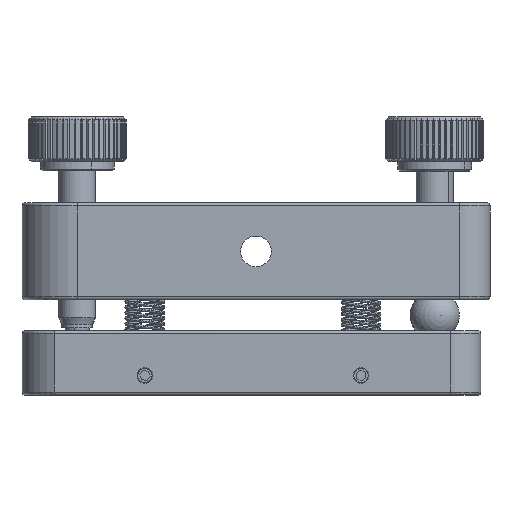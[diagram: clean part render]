
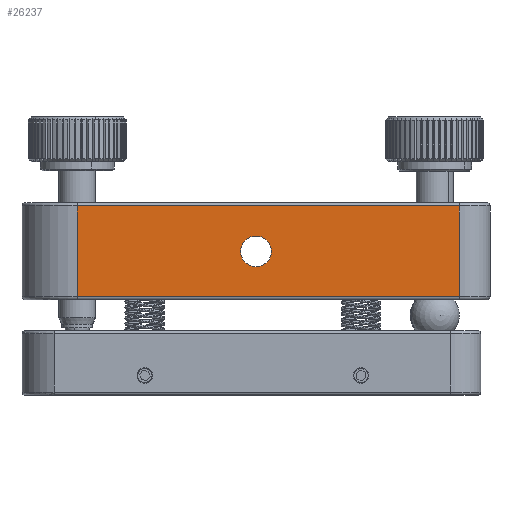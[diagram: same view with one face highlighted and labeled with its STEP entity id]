
A CAD part, left-side view. The second image highlights one B-rep face of the part: STEP entity #26237.
In plain terms, the highlighted planar face has unit normal (-1, 0, 0).
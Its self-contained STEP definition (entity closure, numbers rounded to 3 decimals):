
#840 = LINE ( 'NONE', #17364, #41112 ) ;
#1880 = CARTESIAN_POINT ( 'NONE',  ( -49.697, 1.818, 20.4 ) ) ;
#2075 = FACE_BOUND ( 'NONE', #9231, .T. ) ;
#3292 = VERTEX_POINT ( 'NONE', #35383 ) ;
#3514 = CARTESIAN_POINT ( 'NONE',  ( -49.697, 30.918, 10.5 ) ) ;
#3836 = DIRECTION ( 'NONE',  ( 0., 1., 0. ) ) ;
#8790 = EDGE_LOOP ( 'NONE', ( #52214, #22197, #33926, #47365 ) ) ;
#9231 = EDGE_LOOP ( 'NONE', ( #11255, #41966 ) ) ;
#9278 = CARTESIAN_POINT ( 'NONE',  ( -49.697, -31.282, 10.5 ) ) ;
#10439 = CIRCLE ( 'NONE', #47567, 2.5 ) ;
#10593 = CARTESIAN_POINT ( 'NONE',  ( -49.697, 1.818, 15.4 ) ) ;
#10652 = CARTESIAN_POINT ( 'NONE',  ( -49.697, 30.918, 25.8 ) ) ;
#11255 = ORIENTED_EDGE ( 'NONE', *, *, #14557, .T. ) ;
#13909 = DIRECTION ( 'NONE',  ( 0., 1., 0. ) ) ;
#14554 = DIRECTION ( 'NONE',  ( 1., 0., 0. ) ) ;
#14557 = EDGE_CURVE ( 'NONE', #29776, #37350, #10439, .T. ) ;
#14992 = AXIS2_PLACEMENT_3D ( 'NONE', #51603, #14554, #31043 ) ;
#15338 = EDGE_CURVE ( 'NONE', #3292, #42845, #47700, .T. ) ;
#16256 = DIRECTION ( 'NONE',  ( 1., 0., 0. ) ) ;
#17364 = CARTESIAN_POINT ( 'NONE',  ( -49.697, -31.282, 25.8 ) ) ;
#17538 = VERTEX_POINT ( 'NONE', #39224 ) ;
#18601 = FACE_OUTER_BOUND ( 'NONE', #8790, .T. ) ;
#22197 = ORIENTED_EDGE ( 'NONE', *, *, #49992, .T. ) ;
#24428 = LINE ( 'NONE', #40879, #37033 ) ;
#25810 = DIRECTION ( 'NONE',  ( 0., -1., 0. ) ) ;
#26237 = ADVANCED_FACE ( 'NONE', ( #2075, #18601 ), #35083, .F. ) ;
#27171 = DIRECTION ( 'NONE',  ( 0., 0., -1. ) ) ;
#27873 = CARTESIAN_POINT ( 'NONE',  ( -49.697, -31.282, 25.3 ) ) ;
#29123 = VECTOR ( 'NONE', #25810, 1000. ) ;
#29191 = AXIS2_PLACEMENT_3D ( 'NONE', #34448, #50964, #13909 ) ;
#29776 = VERTEX_POINT ( 'NONE', #10593 ) ;
#31043 = DIRECTION ( 'NONE',  ( 0., 1., 0. ) ) ;
#31704 = EDGE_CURVE ( 'NONE', #38994, #17538, #840, .T. ) ;
#32743 = DIRECTION ( 'NONE',  ( 0., 1., 0. ) ) ;
#33853 = DIRECTION ( 'NONE',  ( 0., 0., -1. ) ) ;
#33926 = ORIENTED_EDGE ( 'NONE', *, *, #31704, .F. ) ;
#34063 = VECTOR ( 'NONE', #27171, 1000. ) ;
#34448 = CARTESIAN_POINT ( 'NONE',  ( -49.697, 1.818, 17.9 ) ) ;
#35083 = PLANE ( 'NONE',  #14992 ) ;
#35383 = CARTESIAN_POINT ( 'NONE',  ( -49.697, 30.918, 25.3 ) ) ;
#37033 = VECTOR ( 'NONE', #3836, 1000. ) ;
#37350 = VERTEX_POINT ( 'NONE', #1880 ) ;
#38994 = VERTEX_POINT ( 'NONE', #27873 ) ;
#39224 = CARTESIAN_POINT ( 'NONE',  ( -49.697, -31.282, 10.5 ) ) ;
#40879 = CARTESIAN_POINT ( 'NONE',  ( -49.697, 30.918, 25.3 ) ) ;
#41112 = VECTOR ( 'NONE', #33853, 1000. ) ;
#41966 = ORIENTED_EDGE ( 'NONE', *, *, #43954, .T. ) ;
#42845 = VERTEX_POINT ( 'NONE', #3514 ) ;
#43954 = EDGE_CURVE ( 'NONE', #37350, #29776, #52507, .T. ) ;
#45811 = EDGE_CURVE ( 'NONE', #38994, #3292, #24428, .T. ) ;
#46326 = LINE ( 'NONE', #9278, #29123 ) ;
#47365 = ORIENTED_EDGE ( 'NONE', *, *, #45811, .T. ) ;
#47567 = AXIS2_PLACEMENT_3D ( 'NONE', #53305, #16256, #32743 ) ;
#47700 = LINE ( 'NONE', #10652, #34063 ) ;
#49992 = EDGE_CURVE ( 'NONE', #42845, #17538, #46326, .T. ) ;
#50964 = DIRECTION ( 'NONE',  ( 1., 0., 0. ) ) ;
#51603 = CARTESIAN_POINT ( 'NONE',  ( -49.697, -31.282, 25.8 ) ) ;
#52214 = ORIENTED_EDGE ( 'NONE', *, *, #15338, .T. ) ;
#52507 = CIRCLE ( 'NONE', #29191, 2.5 ) ;
#53305 = CARTESIAN_POINT ( 'NONE',  ( -49.697, 1.818, 17.9 ) ) ;
